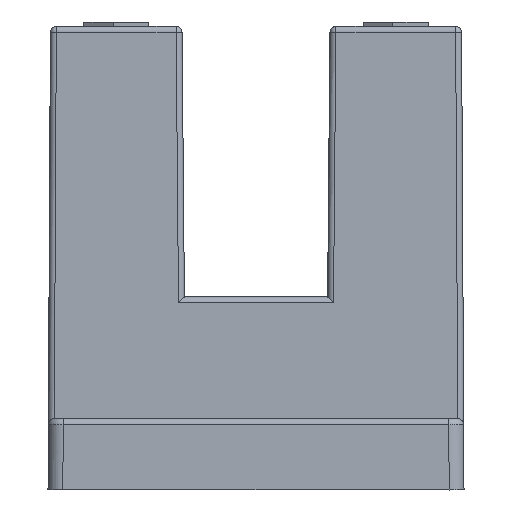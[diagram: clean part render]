
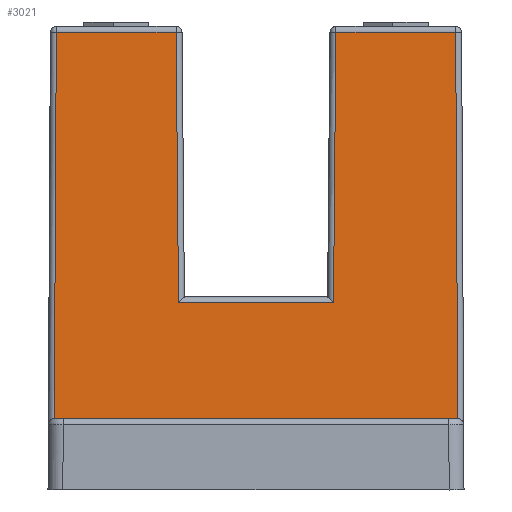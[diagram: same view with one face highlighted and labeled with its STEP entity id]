
A CAD part, left-side view. The second image highlights one B-rep face of the part: STEP entity #3021.
In plain terms, the highlighted planar face has unit normal (-1, 0, 0.018).
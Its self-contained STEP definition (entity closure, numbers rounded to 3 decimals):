
#709=CARTESIAN_POINT('',(-5.966,-34.649,2.4));
#758=DIRECTION('',(-0.017,-0.005,-1.));
#759=VECTOR('',#758,13.006);
#760=CARTESIAN_POINT('',(-5.739,-34.58,15.403));
#761=LINE('',#760,#759);
#762=DIRECTION('',(0.,1.,0.));
#763=VECTOR('',#762,13.576);
#764=CARTESIAN_POINT('',(-5.966,-34.649,2.4));
#765=LINE('',#764,#763);
#766=DIRECTION('',(0.017,-0.005,1.));
#767=VECTOR('',#766,13.006);
#768=CARTESIAN_POINT('',(-5.966,-21.073,2.4));
#769=LINE('',#768,#767);
#770=DIRECTION('',(-0.017,-0.009,-1.));
#771=VECTOR('',#770,9.102);
#772=CARTESIAN_POINT('',(-5.739,-25.173,15.403));
#773=LINE('',#772,#771);
#774=DIRECTION('',(0.017,-0.009,1.));
#775=VECTOR('',#774,9.102);
#776=CARTESIAN_POINT('',(-5.898,-30.469,6.303));
#777=LINE('',#776,#775);
#778=DIRECTION('',(0.,1.,0.));
#779=VECTOR('',#778,4.032);
#780=CARTESIAN_POINT('',(-5.739,-34.58,15.403));
#781=LINE('',#780,#779);
#801=DIRECTION('',(0.,1.,0.));
#802=VECTOR('',#801,5.217);
#803=CARTESIAN_POINT('',(-5.898,-30.469,6.303));
#804=LINE('',#803,#802);
#842=DIRECTION('',(0.,1.,0.));
#843=VECTOR('',#842,4.032);
#844=CARTESIAN_POINT('',(-5.739,-25.173,15.403));
#845=LINE('',#844,#843);
#1805=CARTESIAN_POINT('',(-5.739,-21.141,
15.403));
#1806=VERTEX_POINT('',#1805);
#1807=CARTESIAN_POINT('',(-5.966,-21.073,
2.4));
#1808=VERTEX_POINT('',#1807);
#1866=CARTESIAN_POINT('',(-5.739,-34.58,15.403));
#1867=VERTEX_POINT('',#1866);
#1868=VERTEX_POINT('',#709);
#1907=CARTESIAN_POINT('',(-5.739,-30.548,
15.403));
#1908=VERTEX_POINT('',#1907);
#1909=CARTESIAN_POINT('',(-5.739,-25.173,
15.403));
#1910=VERTEX_POINT('',#1909);
#1911=CARTESIAN_POINT('',(-5.898,-25.252,
6.303));
#1912=VERTEX_POINT('',#1911);
#1913=CARTESIAN_POINT('',(-5.898,-30.469,
6.303));
#1914=VERTEX_POINT('',#1913);
#3001=CARTESIAN_POINT('',(-5.9,-20.368,6.2));
#3002=DIRECTION('',(-1.,0.,0.017));
#3003=DIRECTION('',(0.,-1.,0.));
#3004=AXIS2_PLACEMENT_3D('',#3001,#3002,#3003);
#3005=PLANE('',#3004);
#3007=ORIENTED_EDGE('',*,*,#3006,.F.);
#3008=ORIENTED_EDGE('',*,*,#2938,.T.);
#3009=ORIENTED_EDGE('',*,*,#2976,.T.);
#3010=ORIENTED_EDGE('',*,*,#2541,.T.);
#3012=ORIENTED_EDGE('',*,*,#3011,.F.);
#3014=ORIENTED_EDGE('',*,*,#3013,.T.);
#3016=ORIENTED_EDGE('',*,*,#3015,.F.);
#3018=ORIENTED_EDGE('',*,*,#3017,.T.);
#3019=EDGE_LOOP('',(#3007,#3008,#3009,#3010,#3012,#3014,#3016,#3018));
#3020=FACE_OUTER_BOUND('',#3019,.F.);
#3021=ADVANCED_FACE('',(#3020),#3005,.T.);
#2541=EDGE_CURVE('',#1808,#1806,#769,.T.);
#2938=EDGE_CURVE('',#1867,#1868,#761,.T.);
#2976=EDGE_CURVE('',#1868,#1808,#765,.T.);
#3006=EDGE_CURVE('',#1867,#1908,#781,.T.);
#3011=EDGE_CURVE('',#1910,#1806,#845,.T.);
#3013=EDGE_CURVE('',#1910,#1912,#773,.T.);
#3015=EDGE_CURVE('',#1914,#1912,#804,.T.);
#3017=EDGE_CURVE('',#1914,#1908,#777,.T.);
